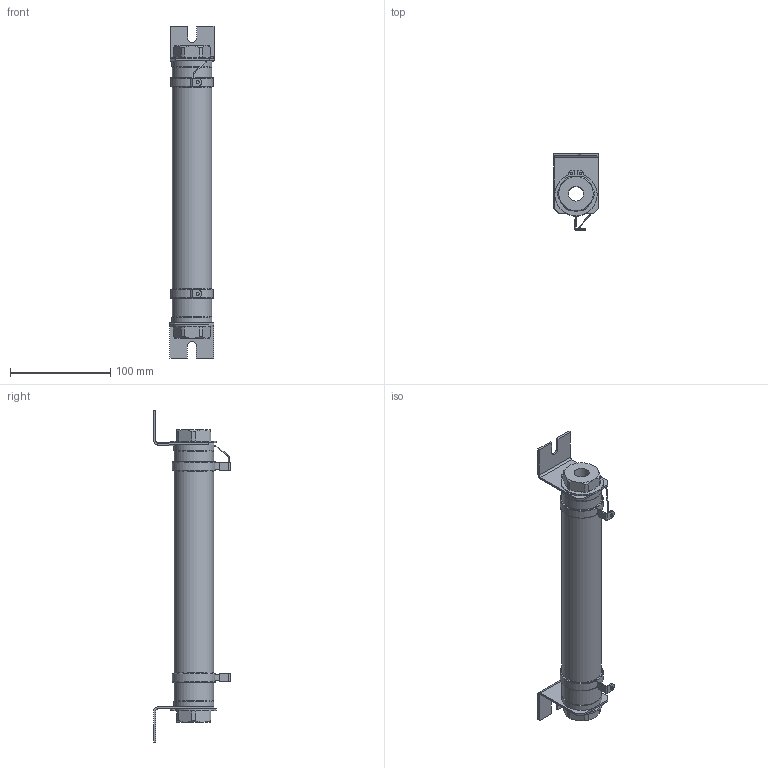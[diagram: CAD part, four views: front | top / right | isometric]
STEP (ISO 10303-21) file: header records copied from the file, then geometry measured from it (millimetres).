
FILE_DESCRIPTION( ( 'Unknown' ), '1' );
FILE_NAME( '//WSCG01/cg_home$/tboudinot/Desktop/WCR38×250_GEN.stp', 'Unknown', ( 'Unknown' ), ( 'Unknown' ), 'PSStep 17.0.49', 'Unknown', ' ' );
FILE_SCHEMA( ( 'AUTOMOTIVE_DESIGN { 1 0 10303 214 1 1 1 1 }' ) );
Length unit declared in the file: millimetre
Products named in the file (11): 111-100-oa0; Tube lisse 30x38x250; 111-100; 211026; 244052 pour diam 38 faston coupe droite découpe 11mm; Assem1; 211004; Ciclips Inox D38; 111-107_fil; 278484; CE10080
Assembly tree (16 placements, depth 3):
  Assem1
    211004  x2
    Ciclips Inox D38  x2
    111-107_fil
    278484  x2
    CE10080  x2
    111-100-oa0
      Tube lisse 30x38x250
      111-100
      211026  x2
      244052 pour diam 38 faston coupe droite découpe 11mm  x2
Bounding box: 44 x 76.7 x 332 mm (x, y, z)
Volume: 189949.2 mm3; surface area: 153296.5 mm2
Topology: 15 solids, 15 shells, 274 faces, 674 edges, 442 vertices
Faces by surface type: plane 142, cylinder 91, torus 23, cone 18
Full cylindrical faces by diameter (mm): 1 x5, 2.5 x4, 3.2 x2, 14.917 x4, 14.95 x2, 29 x2, 30 x1, 37.2 x2, 38 x2, 39.5 x3, 40 x2, 43 x2
Entity records: 5804 total; most frequent: CARTESIAN_POINT 796, DIRECTION 786, ORIENTED_EDGE 642, EDGE_CURVE 321, AXIS2_PLACEMENT_3D 303, VERTEX_POINT 237, EDGE_LOOP 224, FACE_OUTER_BOUND 197
